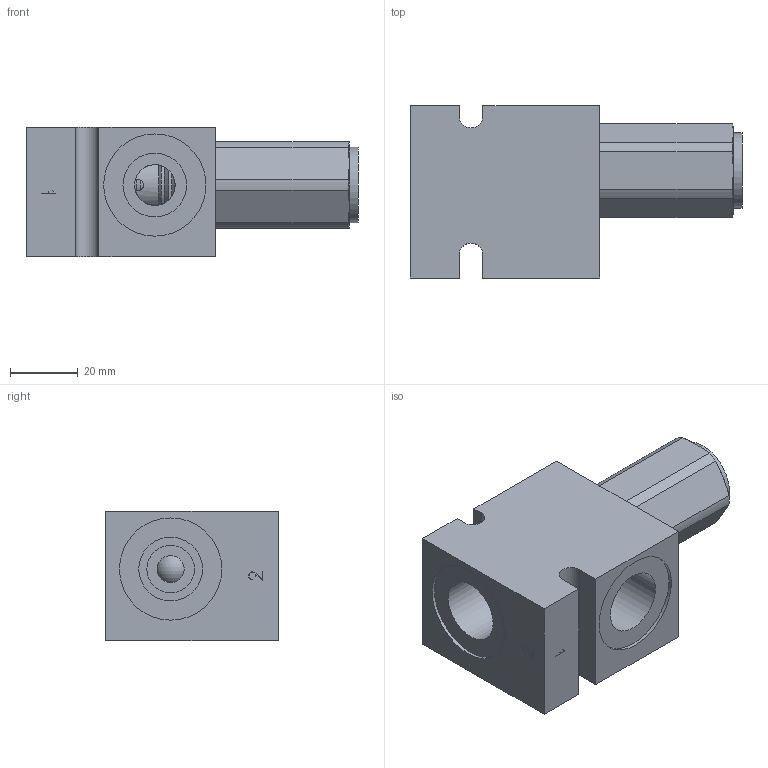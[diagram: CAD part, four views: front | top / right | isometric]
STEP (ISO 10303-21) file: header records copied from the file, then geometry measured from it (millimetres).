
FILE_DESCRIPTION( ( 'Unknown' ), '1' );
FILE_NAME( 'G:/Graphic Design/Graphic Design 2/Data Sheets/PRESSURE CONTROLS/2_STEP/Differential Area Relief Valves/D-DERCD00-C2.stp', 'Unknown', ( 'Unknown' ), ( 'Unknown' ), 'PSStep 16.0.42', 'Unknown', ' ' );
FILE_SCHEMA( ( 'AUTOMOTIVE_DESIGN { 1 0 10303 214 1 1 1 1 }' ) );
Length unit declared in the file: millimetre
Products named in the file (7): DERCD00; DERCD00-3D Full1; DERCD00-3D Full2; DERCD00-3D Full3; DERCD00-3D Full4; Assem1; B-DDEC2
Assembly tree (6 placements, depth 3):
  Assem1
    B-DDEC2
    DERCD00
      DERCD00-3D Full1
      DERCD00-3D Full2
      DERCD00-3D Full3
      DERCD00-3D Full4
Bounding box: 97.93 x 50.8 x 38.1 mm (x, y, z)
Surface area: 27386 mm2 (no closed solid volume)
Topology: 0 solids, 164 shells, 164 faces, 691 edges, 630 vertices
Faces by surface type: plane 81, cylinder 43, cone 32, torus 6, sphere 2
Full cylindrical faces by diameter (mm): 0.2 x2, 3.454 x6, 7.95 x1, 9.474 x1, 11.074 x1, 11.1 x1, 12 x1, 12.7 x1, 12.992 x1, 13.043 x1, 14 x1, 15.735 x1, 15.761 x2, 15.9 x1, 17.043 x1, 17.399 x1, 18.8 x4, 19.622 x1, 20.262 x2, 22.225 x1, 30.17 x2, 30.175 x1
Entity records: 9140 total; most frequent: CARTESIAN_POINT 2994, DIRECTION 934, VERTEX_POINT 610, ORIENTED_EDGE 608, EDGE_CURVE 608, AXIS2_PLACEMENT_3D 382, FACE_BOUND 260, EDGE_LOOP 258
